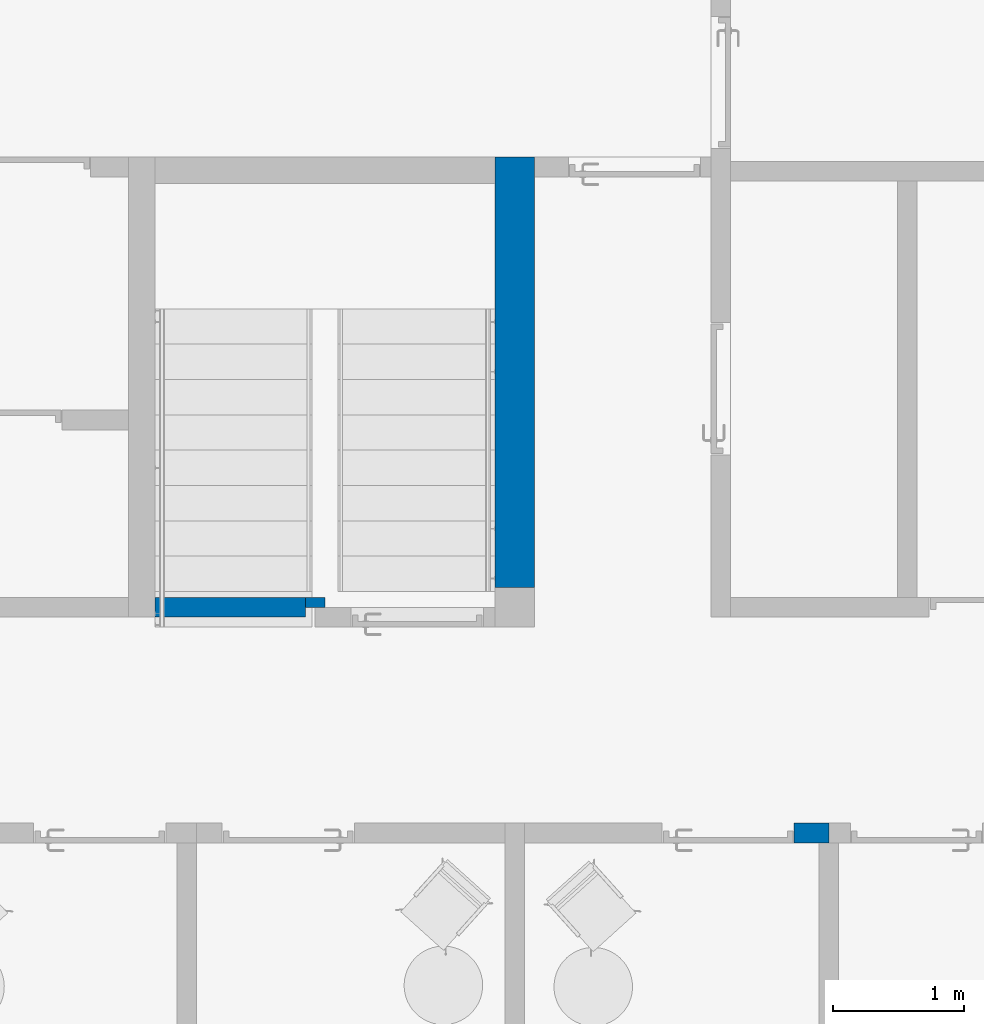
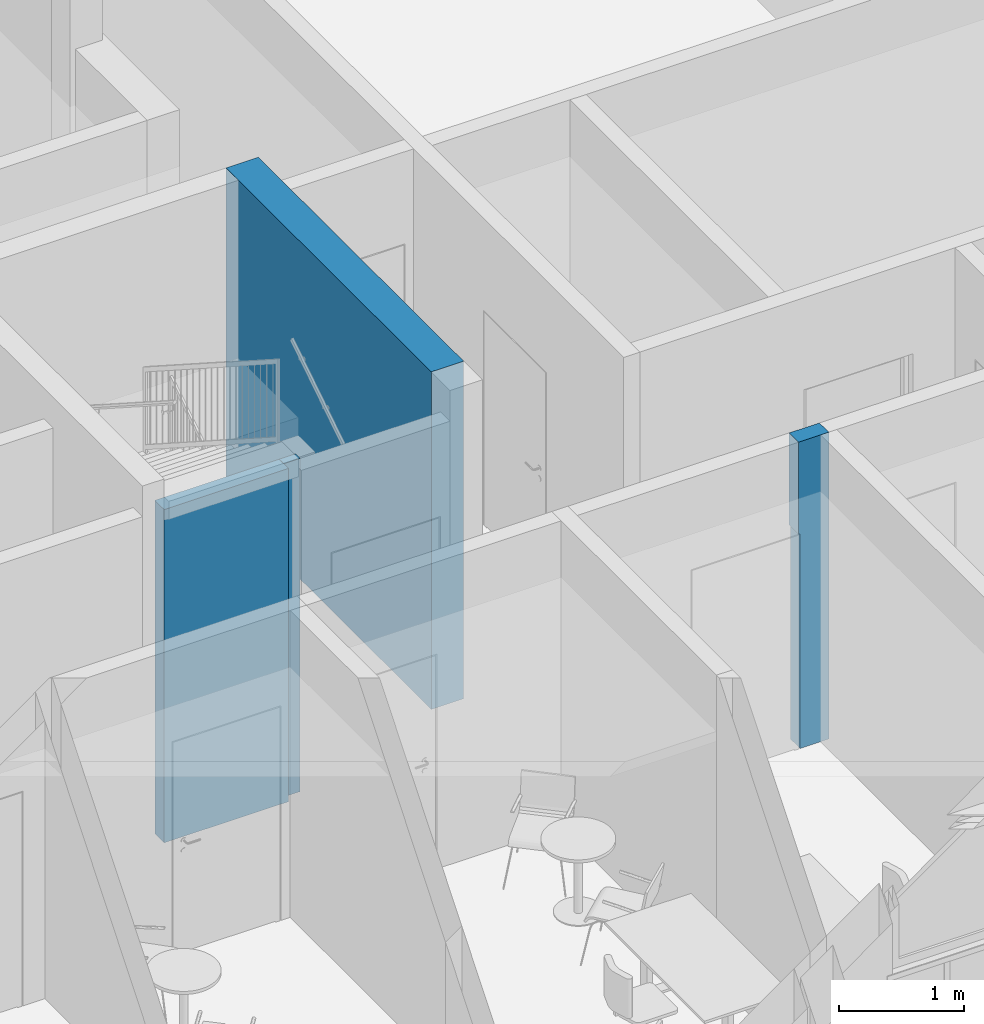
# One storey, part 20 of 58: 4 walls, 1 opening.
"""IFC2X3 building model written with IfcOpenShell, lengths in millimetres."""

from ifc_helpers import new_model, entity, si_unit, converted_unit, derived_unit, direction, frame, frame_2d, origin, place, context, subcontext, project, spatial, rectangle, extrude, material, layer, layer_set, layer_usage, type_object, element, save


model = new_model("IFC2X3")

# Units and contexts
model_context = context("Model", 3, precision=0.01, world=origin(), true_north=direction((0.7716245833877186, 0.6360782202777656)))
body_context = subcontext(model_context, "Body", "Model", "MODEL_VIEW")
ifc_project = project(units=[si_unit("LENGTHUNIT", "METRE", prefix="MILLI"), si_unit("AREAUNIT", "SQUARE_METRE"), converted_unit("PLANEANGLEUNIT", "DEGREE", entity("IfcPlaneAngleMeasure", 0.017453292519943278), si_unit("PLANEANGLEUNIT", "RADIAN"), dimensions=[0, 0, 0, 0, 0, 0, 0]), derived_unit("THERMALTRANSMITTANCEUNIT", [(si_unit("MASSUNIT", "GRAM", prefix="KILO"), 1), (si_unit("THERMODYNAMICTEMPERATUREUNIT", "KELVIN"), -1), (si_unit("TIMEUNIT", "SECOND"), -3)])], contexts=[model_context])

# Site, building, storey
site_placement = place(None, origin())
site = spatial("IfcSite", under=ifc_project, at=site_placement, Name="Default", CompositionType="ELEMENT")
building_placement = place(site_placement, origin())
building = spatial("IfcBuilding", under=site, at=building_placement, CompositionType="ELEMENT")
storey_placement = place(building_placement, frame((0.0, 0.0, 31140.0)))
storey = spatial("IfcBuildingStorey", under=building, at=storey_placement, Name="PLAN U1", CompositionType="ELEMENT", Elevation=31140.000000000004)

# Wall, opening
ifc_material_1 = material(Name="Eksist. vegg")
ifc_layer_1 = layer(ifc_material_1, 150.0)
ifc_layer_set_1 = layer_set([ifc_layer_1], Name="Basic Wall:240 Eksist. Innervegg 150 mm")
ifc_layer_usage_1 = layer_usage(ifc_layer_set_1, "AXIS2", "NEGATIVE", 75.0)
wall_type_1 = type_object("IfcWallType", Name="Basic Wall:240 Eksist. Innervegg 150 mm", PredefinedType="STANDARD", material=ifc_layer_set_1)
wall_1_placement = place(storey_placement, frame((272887.924446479, 57590.25555007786, 0.0)))
wall_1 = element("IfcWallStandardCase", 1, at=wall_1_placement, inside=storey, type_object=wall_type_1, material=ifc_layer_usage_1, Name="Basic Wall:240 Eksist. Innervegg 150 mm", ObjectType="Basic Wall:240 Eksist. Innervegg 150 mm", context=body_context, shape_type="SweptSolid", body=[
    extrude(rectangle(XDim=280.0000000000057, YDim=150.00000000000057, at=frame_2d((140.00000000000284, 4.121147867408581e-13), x_axis=(-1.0, 0.0))), origin(), (0.0, 0.0, 1.0), 2999.9999999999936),
])
opening_placement = place(wall_1_placement, origin())
element("IfcOpeningElement", 2, at=opening_placement, cuts=wall_1, Name="Basic Wall:240 Eksist. Innervegg 150 mm", ObjectType="Opening", context=body_context, shape_type="SweptSolid", body=[
    extrude(rectangle(XDim=2099.999999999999, YDim=1010.000000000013, at=frame_2d((0.0, 0.0), x_axis=(0.0, 1.0))), frame((-490.0, -1449.0, 1050.0), z_axis=(0.0, 1.0, 0.0), x_axis=(-1.0, 0.0, 0.0)), (0.0, 0.0, 1.0), 3048.0),
])

# Walls
ifc_material_2 = material(Name="<Unnamed>")
ifc_layer_2 = layer(ifc_material_2, 300.0)
ifc_layer_set_2 = layer_set([ifc_layer_2], Name="Basic Wall:240 Eksist. innervegg 300 mm")
ifc_layer_usage_2 = layer_usage(ifc_layer_set_2, "AXIS2", "NEGATIVE", 150.0)
wall_type_2 = type_object("IfcWallType", Name="Basic Wall:240 Eksist. innervegg 300 mm", PredefinedType="STANDARD", material=ifc_layer_set_2)
wall_2_placement = place(storey_placement, frame((270767.924446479, 62754.501639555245, 0.0), z_axis=(0.0, 0.0, 1.0), x_axis=(0.0, -1.0, 0.0)))
element("IfcWallStandardCase", 3, at=wall_2_placement, inside=storey, type_object=wall_type_2, material=ifc_layer_usage_2, Name="Basic Wall:240 Eksist. innervegg 300 mm", ObjectType="Basic Wall:240 Eksist. innervegg 300 mm", context=body_context, shape_type="SweptSolid", body=[
    extrude(rectangle(XDim=3289.2460894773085, YDim=300.0000000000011, at=frame_2d((1644.6230447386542, 0.0), x_axis=(-1.0, 0.0))), origin(), (0.0, 0.0, 1.0), 3299.999999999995),
])
ifc_material_3 = material(Name="Gips")
ifc_layer_3 = layer(ifc_material_3, 12.5)
ifc_layer_4 = layer(ifc_material_3, 12.5)
ifc_material_4 = material(Name="Stender isolert")
ifc_layer_5 = layer(ifc_material_4, 100.0)
ifc_layer_6 = layer(ifc_material_3, 12.5)
ifc_layer_7 = layer(ifc_material_3, 12.5)
ifc_layer_set_3 = layer_set([ifc_layer_3, ifc_layer_4, ifc_layer_5, ifc_layer_6, ifc_layer_7], Name="Basic Wall:242 IV01 Innervegg 150 mm")
ifc_layer_usage_3 = layer_usage(ifc_layer_set_3, "AXIS2", "NEGATIVE", 75.0)
wall_type_3 = type_object("IfcWallType", Name="Basic Wall:242 IV01 Innervegg 150 mm", PredefinedType="STANDARD", material=ifc_layer_set_3)
wall_3_placement = place(storey_placement, frame((268017.924446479, 59315.255550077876, -257.68567719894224)))
element("IfcWallStandardCase", 4, at=wall_3_placement, inside=storey, type_object=wall_type_3, material=ifc_layer_usage_3, Name="Basic Wall:242 IV01 Innervegg 150 mm", ObjectType="Basic Wall:242 IV01 Innervegg 150 mm", context=body_context, shape_type="SweptSolid", body=[
    extrude(rectangle(XDim=1150.0000000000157, YDim=150.00000000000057, at=frame_2d((575.0000000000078, -5.044853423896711e-13), x_axis=(-1.0, 0.0))), origin(), (0.0, 0.0, 1.0), 3257.68567719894),
])
ifc_layer_usage_4 = layer_usage(ifc_layer_set_3, "AXIS2", "NEGATIVE", 75.0)
wall_4_placement = place(storey_placement, frame((269242.924446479, 59390.25555007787, -257.68567719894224), z_axis=(0.0, 0.0, 1.0), x_axis=(0.0, -1.0, 0.0)))
element("IfcWallStandardCase", 5, at=wall_4_placement, inside=storey, type_object=wall_type_3, material=ifc_layer_usage_4, Name="Basic Wall:242 IV01 Innervegg 150 mm", ObjectType="Basic Wall:242 IV01 Innervegg 150 mm", context=body_context, shape_type="SweptSolid", body=[
    extrude(rectangle(XDim=74.99999999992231, YDim=150.00000000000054, at=frame_2d((37.499999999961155, 0.0), x_axis=(-1.0, 0.0))), origin(), (0.0, 0.0, 1.0), 3257.68567719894),
])

save(model, "model.ifc")
